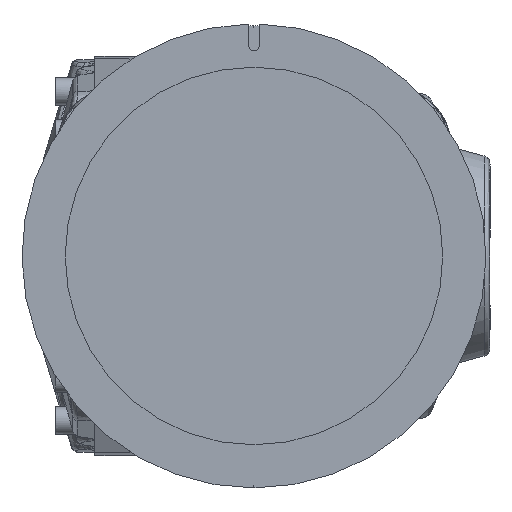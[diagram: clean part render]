
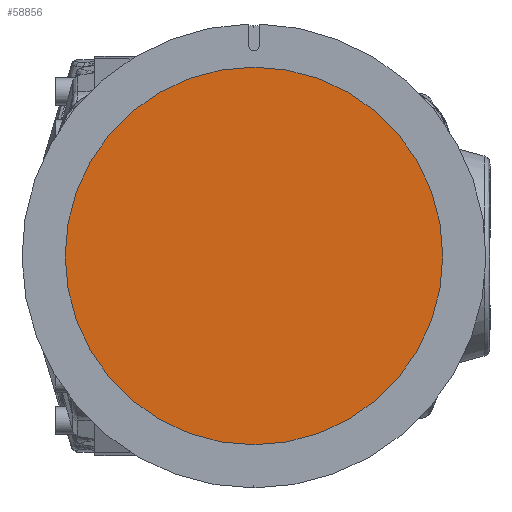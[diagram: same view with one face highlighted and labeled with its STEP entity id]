
A CAD part, left-side view. The second image highlights one B-rep face of the part: STEP entity #58856.
In plain terms, the highlighted planar face has unit normal (-1, 0, 0).
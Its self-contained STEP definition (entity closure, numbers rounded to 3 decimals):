
#1350 = DIRECTION ( 'NONE',  ( 0., 1., 0. ) ) ;
#2519 = EDGE_LOOP ( 'NONE', ( #62509, #44685 ) ) ;
#13310 = CARTESIAN_POINT ( 'NONE',  ( 515.1, 70., 1765. ) ) ;
#23301 = EDGE_CURVE ( 'NONE', #109663, #119358, #56924, .T. ) ;
#27847 = AXIS2_PLACEMENT_3D ( 'NONE', #120407, #61890, #1350 ) ;
#28620 = AXIS2_PLACEMENT_3D ( 'NONE', #48032, #116686, #58072 ) ;
#44685 = ORIENTED_EDGE ( 'NONE', *, *, #59244, .T. ) ;
#48032 = CARTESIAN_POINT ( 'NONE',  ( 515.1, 0., 1835. ) ) ;
#56924 = CIRCLE ( 'NONE', #91753, 70. ) ;
#58072 = DIRECTION ( 'NONE',  ( 0., 1., 0. ) ) ;
#58856 = ADVANCED_FACE ( 'NONE', ( #120103 ), #116273, .F. ) ;
#59244 = EDGE_CURVE ( 'NONE', #119358, #109663, #108131, .T. ) ;
#61890 = DIRECTION ( 'NONE',  ( -1., 0., 0. ) ) ;
#62509 = ORIENTED_EDGE ( 'NONE', *, *, #23301, .T. ) ;
#91753 = AXIS2_PLACEMENT_3D ( 'NONE', #126670, #126579, #126555 ) ;
#92652 = CARTESIAN_POINT ( 'NONE',  ( 515.1, -70., 1765. ) ) ;
#108131 = CIRCLE ( 'NONE', #27847, 70. ) ;
#109663 = VERTEX_POINT ( 'NONE', #13310 ) ;
#116273 = PLANE ( 'NONE',  #28620 ) ;
#116686 = DIRECTION ( 'NONE',  ( 1., 0., 0. ) ) ;
#119358 = VERTEX_POINT ( 'NONE', #92652 ) ;
#120103 = FACE_OUTER_BOUND ( 'NONE', #2519, .T. ) ;
#120407 = CARTESIAN_POINT ( 'NONE',  ( 515.1, 0., 1765. ) ) ;
#126555 = DIRECTION ( 'NONE',  ( 0., 1., 0. ) ) ;
#126579 = DIRECTION ( 'NONE',  ( -1., 0., 0. ) ) ;
#126670 = CARTESIAN_POINT ( 'NONE',  ( 515.1, 0., 1765. ) ) ;
